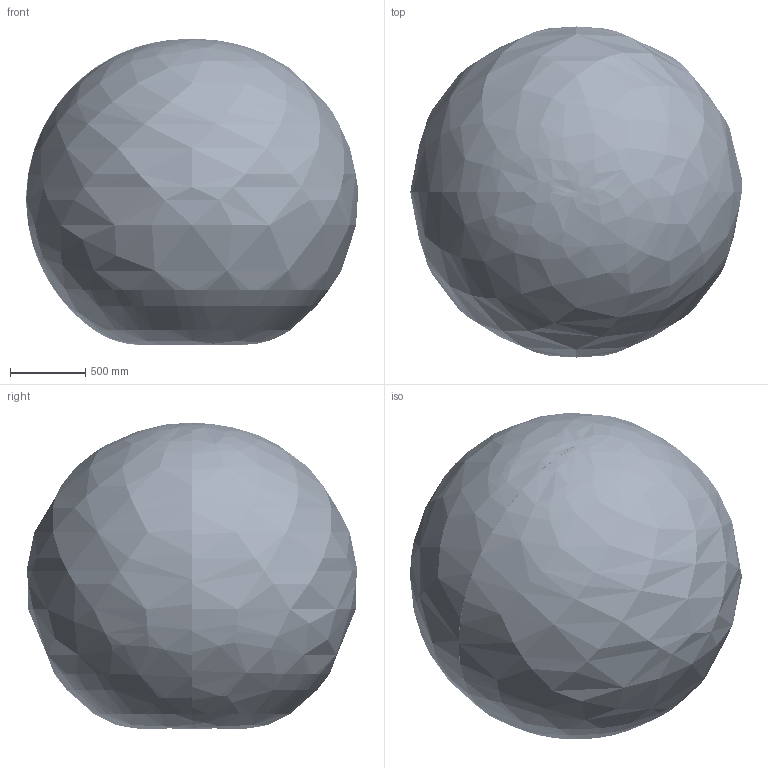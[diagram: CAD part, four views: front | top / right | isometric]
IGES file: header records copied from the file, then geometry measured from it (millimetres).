
Start section: SolidWorks IGES file using analytic representation for surfaces
Global section: file name: Y:\99 Temp\Jevnikar\GP10-06VX10-A00\with range\06VX10-A00_00.IGS; native system: SolidWorks 2024; preprocessor: SolidWorks 2024; author: cosicb; date: 250715.145239; units: millimetre
Bounding box: 2199.92 x 2196.84 x 2027.15 mm (x, y, z)
Surface area: 21175842.9 mm2 (no closed solid volume)
Topology: 0 solids, 0 shells, 11474 faces, 122334 edges, 122059 vertices
Faces by surface type: bspline 7406, revolution 4068
